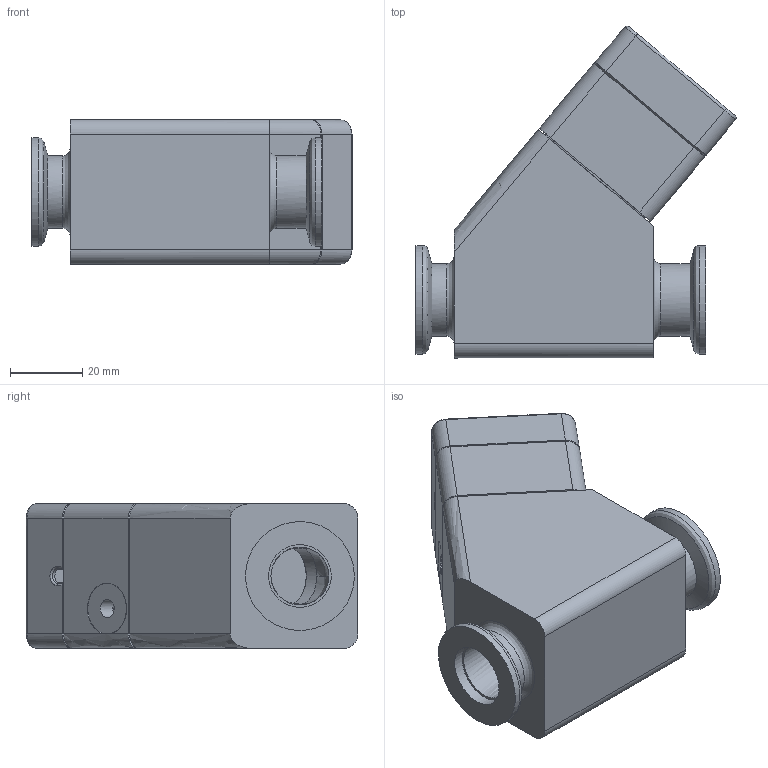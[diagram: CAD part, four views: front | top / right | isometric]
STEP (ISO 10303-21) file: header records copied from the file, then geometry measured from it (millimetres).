
FILE_DESCRIPTION((''),'2;1');
FILE_NAME('O:\MT\MT\Systeme\Cad\Datenexporte\www_vat_ch\262018.stp','2005-09-01T07:59:36',('User'),('SDRC'),'I-DEAS Master Series 9','UNIX','Yes');
FILE_SCHEMA(('CONFIG_CONTROL_DESIGN'));
Length unit declared in the file: millimetre
Assembly tree (15 placements, depth 0):
Bounding box: 88.31 x 91.55 x 40 mm (x, y, z)
Volume: 94123.3 mm3; surface area: 68873.4 mm2
Topology: 12 solids, 14 shells, 673 faces, 1474 edges, 957 vertices
Faces by surface type: bspline 673
Entity records: 24382 total; most frequent: CARTESIAN_POINT 14551, ORIENTED_EDGE 2679, EDGE_CURVE 1341, VERTEX_POINT 868, EDGE_LOOP 775, FACE_OUTER_BOUND 616, ADVANCED_FACE 616, QUASI_UNIFORM_CURVE 381
